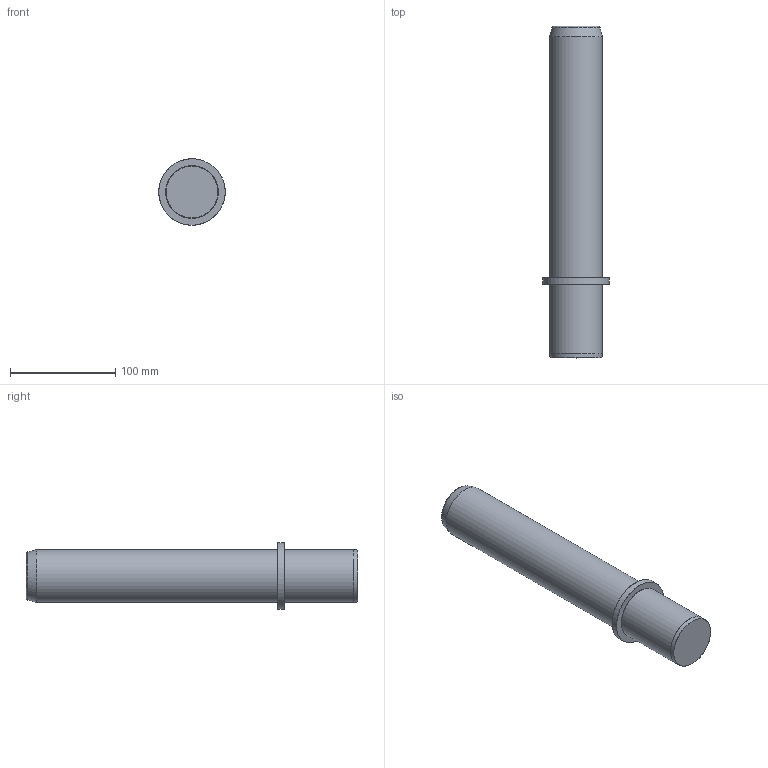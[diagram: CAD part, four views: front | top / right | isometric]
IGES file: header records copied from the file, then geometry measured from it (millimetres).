
Start section: Missler Software BP 521, 31674 Labege Cedex, France Tel   : +33 (0)5 61 00 03 00 Fax   : +33 (0)5 61 00 03 03 Email : sup.topsolid@topsolid.com
Global section: file name: D:\Cuma\18 03 2010\D13.01 g\D13.01_50315.igs; native system: TopSolid v605250 Missler Software; preprocessor: IGES preprocessor v100000; date: 030127.030659; units: millimetre
Bounding box: 63 x 315 x 63 mm (x, y, z)
Surface area: 55487.1 mm2 (no closed solid volume)
Topology: 0 solids, 0 shells, 10 faces, 213 edges, 208 vertices
Faces by surface type: bspline 10
